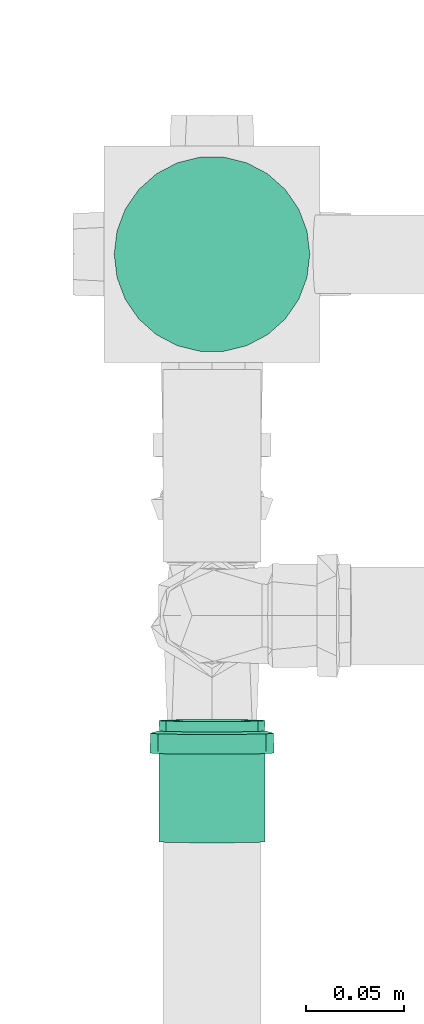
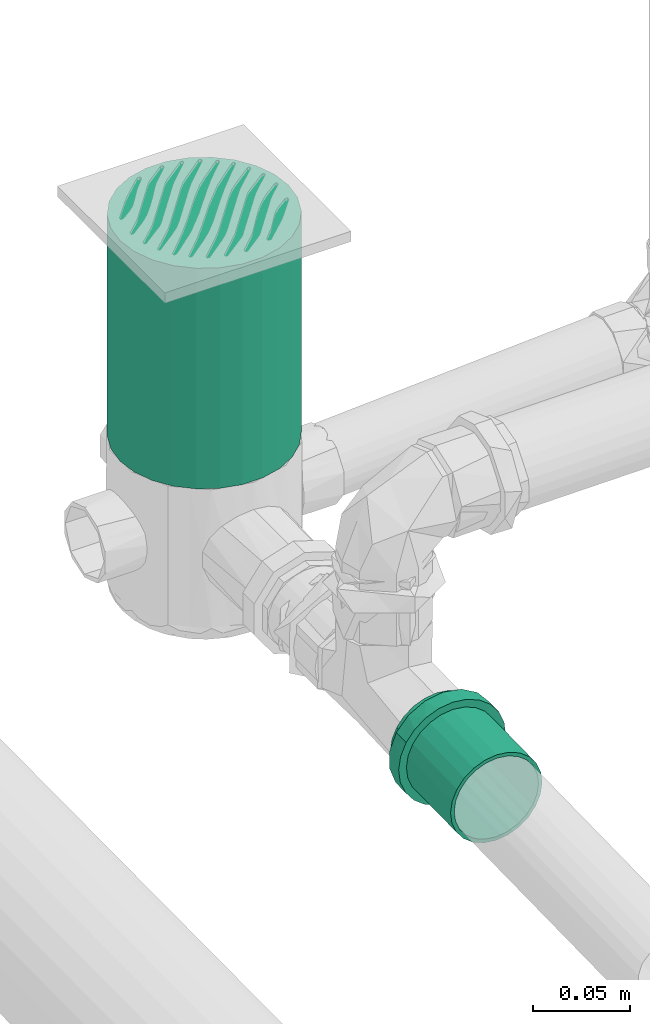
# One storey, part 135 of 589: 1 flow fitting, 1 flow segment.
"""IFC2X3 building model written with IfcOpenShell, lengths in millimetres."""

from ifc_helpers import new_model, entity, si_unit, converted_unit, derived_unit, direction, frame, origin, origin_2d_with_axis, place, context, subcontext, project, spatial, circle, extrude, faceted_brep, source, transform, mapped, material, type_object, type_shapes, element, save


model = new_model("IFC2X3")

# Units and contexts
model_context = context("Model", 3, precision=0.01, world=origin(), true_north=direction((6.123031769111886e-17, 1.0)))
body_context = subcontext(model_context, "Body", "Model", "MODEL_VIEW")
ifc_project = project(units=[si_unit("LENGTHUNIT", "METRE", prefix="MILLI"), si_unit("AREAUNIT", "SQUARE_METRE"), si_unit("VOLUMEUNIT", "CUBIC_METRE"), converted_unit("PLANEANGLEUNIT", "DEGREE", entity("IfcRatioMeasure", 0.017453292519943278), si_unit("PLANEANGLEUNIT", "RADIAN"), dimensions=[0, 0, 0, 0, 0, 0, 0]), si_unit("MASSUNIT", "GRAM", prefix="KILO"), derived_unit("MASSDENSITYUNIT", [(si_unit("MASSUNIT", "GRAM", prefix="KILO"), 1), (si_unit("LENGTHUNIT", "METRE"), -3)]), derived_unit("IONCONCENTRATIONUNIT", [(si_unit("MASSUNIT", "GRAM", prefix="KILO"), 1), (si_unit("LENGTHUNIT", "METRE"), -3)]), derived_unit("MOMENTOFINERTIAUNIT", [(si_unit("LENGTHUNIT", "METRE"), 4)]), si_unit("TIMEUNIT", "SECOND"), si_unit("FREQUENCYUNIT", "HERTZ"), si_unit("THERMODYNAMICTEMPERATUREUNIT", "DEGREE_CELSIUS"), derived_unit("THERMALTRANSMITTANCEUNIT", [(si_unit("MASSUNIT", "GRAM", prefix="KILO"), 1), (si_unit("THERMODYNAMICTEMPERATUREUNIT", "KELVIN"), -1), (si_unit("TIMEUNIT", "SECOND"), -3)]), derived_unit("THERMALCONDUCTANCEUNIT", [(si_unit("MASSUNIT", "GRAM", prefix="KILO"), 1), (si_unit("THERMODYNAMICTEMPERATUREUNIT", "KELVIN"), -1), (si_unit("TIMEUNIT", "SECOND"), -3), (si_unit("LENGTHUNIT", "METRE"), 1)]), derived_unit("VOLUMETRICFLOWRATEUNIT", [(si_unit("LENGTHUNIT", "METRE"), 3), (si_unit("TIMEUNIT", "SECOND"), -1)]), derived_unit("MASSFLOWRATEUNIT", [(si_unit("MASSUNIT", "GRAM", prefix="KILO"), 1), (si_unit("TIMEUNIT", "SECOND"), -1)]), derived_unit("ROTATIONALFREQUENCYUNIT", [(si_unit("TIMEUNIT", "SECOND"), -1)]), si_unit("ELECTRICCURRENTUNIT", "AMPERE"), si_unit("ELECTRICVOLTAGEUNIT", "VOLT"), si_unit("POWERUNIT", "WATT"), si_unit("FORCEUNIT", "NEWTON", prefix="KILO"), si_unit("ILLUMINANCEUNIT", "LUX"), si_unit("LUMINOUSFLUXUNIT", "LUMEN"), si_unit("LUMINOUSINTENSITYUNIT", "CANDELA"), derived_unit("USERDEFINED", [(si_unit("MASSUNIT", "GRAM", prefix="KILO"), -1), (si_unit("LENGTHUNIT", "METRE"), -2), (si_unit("TIMEUNIT", "SECOND"), 3), (si_unit("LUMINOUSFLUXUNIT", "LUMEN"), 1)]), derived_unit("USERDEFINED", [(si_unit("MASSUNIT", "GRAM", prefix="KILO"), 1), (si_unit("TIMEUNIT", "SECOND"), -3), (si_unit("LENGTHUNIT", "METRE"), 3), (si_unit("ELECTRICCURRENTUNIT", "AMPERE"), -2)]), derived_unit("SOUNDPOWERUNIT", [(si_unit("MASSUNIT", "GRAM", prefix="KILO"), 1), (si_unit("TIMEUNIT", "SECOND"), -3), (si_unit("LENGTHUNIT", "METRE"), 2)]), derived_unit("SOUNDPRESSUREUNIT", [(si_unit("MASSUNIT", "GRAM", prefix="KILO"), 1), (si_unit("LENGTHUNIT", "METRE"), -1), (si_unit("TIMEUNIT", "SECOND"), -2)]), derived_unit("LINEARVELOCITYUNIT", [(si_unit("LENGTHUNIT", "METRE"), 1), (si_unit("TIMEUNIT", "SECOND"), -1)]), si_unit("PRESSUREUNIT", "PASCAL"), derived_unit("USERDEFINED", [(si_unit("MASSUNIT", "GRAM", prefix="KILO"), 1), (si_unit("LENGTHUNIT", "METRE"), -2), (si_unit("TIMEUNIT", "SECOND"), -2)]), derived_unit("LINEARFORCEUNIT", [(si_unit("MASSUNIT", "GRAM", prefix="KILO"), 1), (si_unit("TIMEUNIT", "SECOND"), -2)]), derived_unit("PLANARFORCEUNIT", [(si_unit("MASSUNIT", "GRAM", prefix="KILO"), 1), (si_unit("LENGTHUNIT", "METRE"), -1), (si_unit("TIMEUNIT", "SECOND"), -2)]), derived_unit("SPECIFICHEATCAPACITYUNIT", [(si_unit("THERMODYNAMICTEMPERATUREUNIT", "KELVIN"), -1), (si_unit("LENGTHUNIT", "METRE"), 2), (si_unit("TIMEUNIT", "SECOND"), -2)]), derived_unit("HEATINGVALUEUNIT", [(si_unit("LENGTHUNIT", "METRE"), 2), (si_unit("TIMEUNIT", "SECOND"), -2)]), derived_unit("VAPORPERMEABILITYUNIT", [(si_unit("LENGTHUNIT", "METRE"), -1), (si_unit("TIMEUNIT", "SECOND"), 1)]), derived_unit("DYNAMICVISCOSITYUNIT", [(si_unit("MASSUNIT", "GRAM", prefix="KILO"), 1), (si_unit("TIMEUNIT", "SECOND"), -1), (si_unit("LENGTHUNIT", "METRE"), -1)]), derived_unit("THERMALEXPANSIONCOEFFICIENTUNIT", [(si_unit("THERMODYNAMICTEMPERATUREUNIT", "KELVIN"), -1)]), derived_unit("MODULUSOFELASTICITYUNIT", [(si_unit("MASSUNIT", "GRAM", prefix="KILO"), 1), (si_unit("LENGTHUNIT", "METRE"), -1), (si_unit("TIMEUNIT", "SECOND"), -2)]), derived_unit("ISOTHERMALMOISTURECAPACITYUNIT", [(si_unit("LENGTHUNIT", "METRE"), 3), (si_unit("MASSUNIT", "GRAM", prefix="KILO"), -1)]), derived_unit("MOISTUREDIFFUSIVITYUNIT", [(si_unit("TIMEUNIT", "SECOND"), -1), (si_unit("LENGTHUNIT", "METRE"), 2)])], contexts=[model_context])

# Site, building, storey
site_placement = place(None, origin())
site = spatial("IfcSite", under=ifc_project, at=site_placement, Name="Default", CompositionType="ELEMENT")
building_placement = place(site_placement, origin())
building = spatial("IfcBuilding", under=site, at=building_placement, CompositionType="ELEMENT")
storey_placement = place(building_placement, frame((0.0, 0.0, 100.0)))
storey = spatial("IfcBuildingStorey", under=building, at=storey_placement, Name="TÉRREO", CompositionType="ELEMENT", Elevation=100.0)

# Flow segment
pipe_segment_type = type_object("IfcPipeSegmentType", Name="Tipos de tubos:PVC Esgoto Série Normal", PredefinedType="NOTDEFINED")
flow_segment_placement = place(storey_placement, origin())
element("IfcFlowSegment", 1, at=flow_segment_placement, inside=storey, type_object=pipe_segment_type, Name="Tipos de tubos:PVC Esgoto Série Normal", ObjectType="Tipos de tubos:PVC Esgoto Série Normal", context=body_context, shape_type="SweptSolid", body=[
    extrude(circle(Radius=50.0, at=origin_2d_with_axis()), frame((9003.026170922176, -9709.279677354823, -144.90911149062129), z_axis=(0.0, 0.0, 1.0), x_axis=(-1.0, 0.0, 0.0)), (0.0, 0.0, 1.0), 138.40911149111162),
])

# Flow fitting
ifc_material = material(Name="PVC Série Normal")
pipe_fitting_type = type_object("IfcPipeFittingType", Name="PVC Esgoto_Luva Simples para Conexão_Rodrigo MEP:Standard", PredefinedType="NOTDEFINED", material=ifc_material)
shared_shape = source(origin(), body_context, "Body", "Brep", [
    faceted_brep([(16.599999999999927, 15.900000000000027, -27.53960784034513), (16.599999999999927, 22.485995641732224, -22.485995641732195), (16.599999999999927, 13.599999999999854, -23.555890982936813), (16.599999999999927, 7.039878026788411, -26.273182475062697), (16.599999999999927, 8.2304456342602, -30.71644127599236), (16.599999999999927, 19.233304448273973, -19.233304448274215), (16.599999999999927, 27.539607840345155, -15.899999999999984), (16.599999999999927, 23.55589098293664, -13.600000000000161), (16.599999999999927, 26.273182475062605, -7.03987802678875), (16.599999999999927, 30.716441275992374, -8.230445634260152), (16.599999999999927, 27.2, 0.0), (16.599999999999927, 31.8, 0.0), (16.599999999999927, 26.273182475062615, 7.0398780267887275), (16.599999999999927, 30.71644127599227, 8.23044563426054), (16.599999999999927, 23.555890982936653, 13.60000000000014), (16.599999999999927, 27.539607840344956, 15.900000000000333), (16.599999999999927, 19.233304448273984, 19.2333044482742), (16.599999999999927, 22.485995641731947, 22.48599564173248), (16.599999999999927, 13.599999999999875, 23.555890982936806), (16.599999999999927, 15.899999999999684, 27.53960784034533), (16.599999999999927, 7.039878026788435, 26.27318247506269), (16.599999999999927, 8.230445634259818, 30.716441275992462), (16.599999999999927, 0.0, 27.2), (16.599999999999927, 0.0, 31.8), (16.599999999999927, -7.039878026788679, 26.273182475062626), (16.599999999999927, -8.230445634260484, 30.716441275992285), (16.599999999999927, -13.600000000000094, 23.555890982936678), (16.599999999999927, -15.900000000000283, 27.53960784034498), (16.599999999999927, -19.23330444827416, 19.233304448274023), (16.599999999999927, -22.485995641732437, 22.48599564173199), (16.599999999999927, -23.55589098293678, 13.59999999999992), (16.599999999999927, -27.539607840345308, 15.899999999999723), (16.599999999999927, -30.71644127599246, 8.230445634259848), (16.599999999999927, -26.273182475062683, 7.039878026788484), (16.599999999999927, -31.8, 0.0), (16.599999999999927, -27.2, 0.0), (16.599999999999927, -30.71644127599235, -8.23044563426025), (16.599999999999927, -26.273182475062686, -7.03987802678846), (16.599999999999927, -27.53960784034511, -15.90000000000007), (16.599999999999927, -23.55589098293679, -13.599999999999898), (16.599999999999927, -22.485995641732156, -22.485995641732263), (16.599999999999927, -19.233304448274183, -19.233304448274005), (16.599999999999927, -15.899999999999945, -27.53960784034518), (16.599999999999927, -13.600000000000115, -23.555890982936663), (16.599999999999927, -8.230445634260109, -30.716441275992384), (16.599999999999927, -7.039878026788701, -26.273182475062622), (16.599999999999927, 0.0, -31.8), (16.599999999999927, 0.0, -27.2), (6.500000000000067, -10.708108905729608, 29.429219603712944), (6.500000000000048, -24.359073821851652, 20.44200387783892), (6.500000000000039, -27.120498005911, 15.6595386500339), (6.50000000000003, -29.881922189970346, 10.877073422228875), (6.500000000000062, -15.89769721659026, 27.540937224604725), (6.500000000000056, -20.128385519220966, 23.991470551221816), (6.50000000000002, -30.840961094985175, 5.438536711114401), (6.5000000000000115, -31.8, 0.0), (6.50000000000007, -5.518520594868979, 31.317501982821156), (6.500000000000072, 5.526376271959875, 31.316116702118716), (6.50000000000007, 0.00392783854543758, 31.316809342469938), (6.500000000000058, 20.134403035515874, 23.986420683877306), (6.500000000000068, 10.715490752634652, 29.42653259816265), (6.500000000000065, 15.904605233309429, 27.536948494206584), (6.500000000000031, 29.8846497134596, 10.869577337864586), (6.500000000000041, 27.12442527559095, 15.652735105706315), (6.5000000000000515, 24.364200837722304, 20.435892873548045), (6.5000000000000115, 31.8, 0.0), (6.499999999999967, 24.364200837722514, -20.435892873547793), (6.499999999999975, 27.12442527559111, -15.652735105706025), (6.499999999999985, 29.884649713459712, -10.869577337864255), (6.4999999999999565, 15.904605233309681, -27.53694849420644), (6.499999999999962, 20.134403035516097, -23.986420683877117), (6.499999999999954, 10.715490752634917, -29.42653259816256), (6.499999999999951, 5.526376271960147, -31.31611670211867), (6.499999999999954, -5.518520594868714, -31.317501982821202), (6.499999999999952, 0.003927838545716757, -31.316809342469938), (6.499999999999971, -20.128385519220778, -23.99147055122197), (6.499999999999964, -15.897697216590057, -27.54093722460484), (6.499999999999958, -10.70810890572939, -29.42921960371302), (6.499999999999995, -29.881922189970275, -10.877073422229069), (6.499999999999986, -27.12049800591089, -15.659538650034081), (6.499999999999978, -24.359073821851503, -20.442003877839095), (6.500000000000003, -30.840961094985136, -5.438536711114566), (6.499999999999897, -30.696173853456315, -6.259599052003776), (62.0, 13.600000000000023, -23.55589098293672), (62.0, 19.233304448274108, -19.23330444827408), (62.0, 12.499999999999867, -21.650635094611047), (62.0, 6.470476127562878, -24.14814565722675), (62.0, 7.039878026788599, -26.273182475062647), (62.0, 17.677669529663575, -17.677669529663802), (62.0, 23.55589098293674, -13.599999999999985), (62.0, 21.65063509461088, -12.50000000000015), (62.0, 24.148145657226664, -6.470476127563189), (62.0, 26.27318247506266, -7.039878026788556), (62.0, 25.0, 0.0), (62.0, 27.2, 0.0), (62.0, 24.148145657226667, 6.4704761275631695), (62.0, 26.273182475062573, 7.03987802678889), (62.0, 21.650635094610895, 12.500000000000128), (62.0, 23.555890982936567, 13.600000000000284), (62.0, 17.67766952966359, 17.67766952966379), (62.0, 19.233304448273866, 19.233304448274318), (62.0, 12.499999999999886, 21.650635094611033), (62.0, 13.59999999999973, 23.55589098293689), (62.0, 6.4704761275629, 24.14814565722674), (62.0, 7.039878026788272, 26.273182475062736), (62.0, 0.0, 25.0), (62.0, 0.0, 27.2), (62.0, -6.470476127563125, 24.148145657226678), (62.0, -7.039878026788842, 26.273182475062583), (62.0, -12.500000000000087, 21.650635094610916), (62.0, -13.600000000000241, 23.555890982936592), (62.0, -17.677669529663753, 17.677669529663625), (62.0, -19.233304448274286, 19.2333044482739), (62.0, -21.65063509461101, 12.499999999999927), (62.0, -23.555890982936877, 13.599999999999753), (62.0, -26.27318247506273, 7.039878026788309), (62.0, -24.14814565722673, 6.470476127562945), (62.0, -27.2, 0.0), (62.0, -25.0, 0.0), (62.0, -26.27318247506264, -7.0398780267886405), (62.0, -24.148145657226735, -6.470476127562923), (62.0, -23.5558909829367, -13.600000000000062), (62.0, -21.650635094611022, -12.499999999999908), (62.0, -19.233304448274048, -19.233304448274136), (62.0, -17.67766952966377, -17.677669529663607), (62.0, -13.599999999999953, -23.555890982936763), (62.0, -12.500000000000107, -21.650635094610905), (62.0, -7.039878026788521, -26.27318247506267), (62.0, -6.470476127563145, -24.148145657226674), (62.0, 0.0, -27.2), (62.0, 0.0, -25.0), (0.0, 12.499999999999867, -21.650635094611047), (0.0, 19.233304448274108, -19.23330444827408), (0.0, 13.600000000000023, -23.55589098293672), (0.0, 6.470476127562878, -24.14814565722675), (0.0, 17.677669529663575, -17.677669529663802), (0.0, 23.55589098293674, -13.599999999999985), (0.0, 21.65063509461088, -12.50000000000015), (0.0, 24.148145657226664, -6.470476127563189), (0.0, 26.27318247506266, -7.039878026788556), (0.0, 25.0, 0.0), (0.0, 27.2, 0.0), (0.0, 24.148145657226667, 6.4704761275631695), (0.0, 26.273182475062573, 7.03987802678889), (0.0, 21.650635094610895, 12.500000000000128), (0.0, 23.555890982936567, 13.600000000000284), (0.0, 17.67766952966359, 17.67766952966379), (0.0, 19.233304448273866, 19.233304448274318), (0.0, 12.499999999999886, 21.650635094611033), (0.0, 13.59999999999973, 23.55589098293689), (0.0, 6.4704761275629, 24.14814565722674), (0.0, 7.039878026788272, 26.273182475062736), (0.0, 0.0, 25.0), (0.0, 0.0, 27.2), (0.0, -6.470476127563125, 24.148145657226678), (0.0, -7.039878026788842, 26.273182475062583), (0.0, -12.500000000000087, 21.650635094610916), (0.0, -13.600000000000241, 23.555890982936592), (0.0, -17.677669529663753, 17.677669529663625), (0.0, -19.233304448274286, 19.2333044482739), (0.0, -21.65063509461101, 12.499999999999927), (0.0, -23.555890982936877, 13.599999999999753), (0.0, -26.27318247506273, 7.039878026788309), (0.0, -24.14814565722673, 6.470476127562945), (0.0, -27.2, 0.0), (0.0, -25.0, 0.0), (0.0, -26.27318247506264, -7.0398780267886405), (0.0, -24.148145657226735, -6.470476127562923), (0.0, -23.5558909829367, -13.600000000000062), (0.0, -21.650635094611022, -12.499999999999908), (0.0, -19.233304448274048, -19.233304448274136), (0.0, -17.67766952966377, -17.677669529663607), (0.0, -13.599999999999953, -23.555890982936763), (0.0, -12.500000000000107, -21.650635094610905), (0.0, -7.039878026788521, -26.27318247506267), (0.0, -6.470476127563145, -24.148145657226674), (0.0, 0.0, -27.2), (0.0, 0.0, -25.0), (0.0, 7.039878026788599, -26.273182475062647), (5.300000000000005, -26.37968999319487, 4.651830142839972), (5.299999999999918, -26.25584678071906, 5.354122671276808), (5.300000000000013, -25.559379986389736, 9.303660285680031), (5.300000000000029, -20.835434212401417, 17.48498444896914), (5.300000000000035, -17.216732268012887, 20.521006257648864), (5.300000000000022, -23.19740709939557, 13.394322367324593), (5.3000000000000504, -4.720244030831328, 26.787297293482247), (5.300000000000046, -9.15913717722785, 25.172162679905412), (5.299999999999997, -27.2, 0.0), (5.300000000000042, -13.598030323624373, 23.557028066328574), (5.300000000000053, 9.165451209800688, 25.169864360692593), (5.300000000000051, 13.603939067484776, 23.55361632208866), (5.300000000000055, 4.7269633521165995, 26.786112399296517), (5.300000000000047, 17.221879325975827, 20.516686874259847), (5.300000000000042, 20.839819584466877, 17.479757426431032), (5.3000000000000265, 25.56171296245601, 9.297248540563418), (5.299999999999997, 27.2, 0.0), (5.3000000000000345, 23.20076627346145, 13.388502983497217), (5.300000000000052, 0.003359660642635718, 26.786704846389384), (5.299999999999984, 25.56171296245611, -9.29724854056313), (5.299999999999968, 20.839819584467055, -17.47975742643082), (5.2999999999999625, 17.22187932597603, -20.516686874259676), (5.299999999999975, 23.200766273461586, -13.388502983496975), (5.299999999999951, 4.726963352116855, -26.78611239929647), (5.2999999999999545, 9.165451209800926, -25.169864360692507), (5.299999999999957, 13.603939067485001, -23.553616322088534), (5.29999999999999, -26.379689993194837, -4.651830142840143), (5.299999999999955, -9.159137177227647, -25.17216267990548), (5.299999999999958, -13.5980303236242, -23.55702806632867), (5.299999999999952, -4.720244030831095, -26.787297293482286), (5.299999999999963, -17.216732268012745, -20.52100625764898), (5.299999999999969, -20.83543421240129, -17.484984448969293), (5.299999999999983, -25.559379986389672, -9.303660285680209), (5.299999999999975, -23.197407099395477, -13.394322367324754), (5.299999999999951, 0.003359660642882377, -26.78670484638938), (39.0, -25.0, 0.0), (39.0, 25.0, 0.0)], [[[0, 1, 2]], [[0, 2, 3]], [[3, 4, 0]], [[2, 1, 5]], [[6, 5, 1]], [[7, 5, 6]], [[8, 7, 6]], [[8, 6, 9]], [[8, 9, 10]], [[10, 9, 11]], [[12, 10, 11]], [[12, 11, 13]], [[14, 12, 13]], [[14, 13, 15]], [[16, 14, 15]], [[15, 17, 16]], [[17, 18, 16]], [[17, 19, 18]], [[18, 19, 20]], [[21, 20, 19]], [[20, 21, 22]], [[22, 21, 23]], [[22, 23, 24]], [[24, 23, 25]], [[24, 25, 26]], [[27, 26, 25]], [[27, 28, 26]], [[28, 27, 29]], [[30, 28, 29]], [[31, 30, 29]], [[32, 30, 31]], [[33, 30, 32]], [[33, 32, 34]], [[35, 33, 34]], [[36, 35, 34]], [[36, 37, 35]], [[37, 36, 38]], [[39, 37, 38]], [[39, 38, 40]], [[39, 40, 41]], [[40, 42, 41]], [[41, 42, 43]], [[43, 42, 44]], [[44, 45, 43]], [[46, 45, 44]], [[4, 47, 46]], [[46, 47, 45]], [[4, 3, 47]], [[48, 27, 25]], [[31, 29, 49]], [[31, 49, 50, 51]], [[52, 53, 27]], [[32, 51, 54]], [[54, 55, 34]], [[54, 34, 32]], [[25, 56, 48]], [[49, 29, 53]], [[23, 57, 58, 56]], [[59, 19, 17]], [[27, 53, 29]], [[48, 52, 27]], [[31, 51, 32]], [[57, 23, 21]], [[60, 19, 61]], [[15, 62, 63, 64]], [[19, 60, 21]], [[15, 13, 62]], [[17, 64, 59]], [[57, 21, 60]], [[23, 56, 25]], [[15, 64, 17]], [[13, 65, 62]], [[13, 11, 65]], [[59, 61, 19]], [[65, 11, 9]], [[6, 1, 66]], [[6, 66, 67, 68]], [[69, 70, 0]], [[68, 65, 9]], [[71, 69, 0]], [[71, 0, 4]], [[4, 72, 71]], [[66, 1, 70]], [[46, 73, 74, 72]], [[75, 76, 42]], [[0, 70, 1]], [[75, 42, 40]], [[6, 68, 9]], [[73, 46, 44]], [[77, 42, 76]], [[38, 78, 79, 80]], [[42, 77, 44]], [[38, 36, 78]], [[40, 80, 75]], [[73, 44, 77]], [[46, 72, 4]], [[38, 80, 40]], [[36, 81, 82, 78]], [[55, 81, 34]], [[34, 81, 36]], [[83, 84, 85]], [[83, 85, 86]], [[86, 87, 83]], [[85, 84, 88]], [[89, 88, 84]], [[88, 89, 90]], [[90, 89, 91]], [[92, 91, 89]], [[92, 93, 91]], [[93, 92, 94]], [[95, 93, 94]], [[94, 96, 95]], [[95, 96, 97]], [[98, 97, 96]], [[97, 98, 99]], [[99, 98, 100]], [[101, 99, 100]], [[100, 102, 101]], [[101, 102, 103]], [[104, 103, 102]], [[103, 104, 105]], [[105, 104, 106]], [[105, 106, 107]], [[107, 106, 108]], [[107, 108, 109]], [[110, 109, 108]], [[110, 111, 109]], [[111, 110, 112]], [[112, 113, 111]], [[114, 113, 112]], [[113, 114, 115]], [[115, 116, 113]], [[117, 116, 115]], [[117, 118, 116]], [[119, 118, 117]], [[119, 120, 118]], [[120, 119, 121]], [[121, 122, 120]], [[122, 121, 123]], [[122, 123, 124]], [[123, 125, 124]], [[124, 125, 126]], [[126, 125, 127]], [[127, 128, 126]], [[129, 128, 127]], [[87, 130, 129]], [[129, 130, 128]], [[87, 86, 130]], [[131, 132, 133]], [[134, 131, 133]], [[135, 132, 131]], [[132, 135, 136]], [[137, 136, 135]], [[138, 136, 137]], [[136, 138, 139]], [[138, 140, 139]], [[141, 139, 140]], [[141, 140, 142]], [[142, 143, 141]], [[144, 143, 142]], [[143, 144, 145]], [[146, 145, 144]], [[147, 145, 146]], [[147, 146, 148]], [[148, 149, 147]], [[150, 149, 148]], [[149, 150, 151]], [[152, 151, 150]], [[153, 151, 152]], [[154, 153, 152]], [[155, 153, 154]], [[156, 155, 154]], [[155, 156, 157]], [[156, 158, 157]], [[159, 157, 158]], [[158, 160, 159]], [[159, 160, 161]], [[162, 161, 160]], [[160, 163, 162]], [[162, 163, 164]], [[163, 165, 164]], [[164, 165, 166]], [[165, 167, 166]], [[168, 166, 167]], [[167, 169, 168]], [[170, 168, 169]], [[171, 170, 169]], [[171, 172, 170]], [[173, 172, 171]], [[174, 172, 173]], [[173, 175, 174]], [[174, 175, 176]], [[175, 177, 176]], [[177, 134, 178]], [[176, 177, 178]], [[133, 178, 134]], [[162, 179, 180, 181]], [[159, 182, 183]], [[182, 161, 181, 184]], [[185, 155, 186]], [[161, 162, 181]], [[187, 179, 164]], [[183, 188, 157]], [[183, 157, 159]], [[161, 182, 159]], [[189, 190, 149]], [[189, 149, 151]], [[157, 188, 186]], [[157, 186, 155]], [[153, 155, 185]], [[164, 179, 162]], [[151, 191, 189]], [[147, 192, 193]], [[143, 194, 195]], [[194, 145, 193, 196]], [[143, 195, 141]], [[10, 12, 96, 94]], [[149, 192, 147]], [[153, 185, 197, 191]], [[153, 191, 151]], [[145, 147, 193]], [[190, 192, 149]], [[145, 194, 143]], [[139, 195, 198]], [[132, 199, 200]], [[199, 136, 198, 201]], [[202, 178, 203]], [[136, 139, 198]], [[139, 141, 195]], [[92, 8, 10, 94]], [[133, 203, 178]], [[200, 204, 133]], [[136, 199, 132]], [[205, 164, 166]], [[206, 207, 172]], [[133, 204, 203]], [[206, 172, 174]], [[176, 178, 202]], [[200, 133, 132]], [[174, 208, 206]], [[170, 209, 210]], [[166, 211, 205]], [[211, 168, 210, 212]], [[168, 211, 166]], [[172, 209, 170]], [[176, 202, 213, 208]], [[176, 208, 174]], [[168, 170, 210]], [[207, 209, 172]], [[205, 187, 164]], [[116, 118, 214, 165, 163]], [[156, 109, 111, 158]], [[111, 113, 160, 158]], [[113, 116, 163, 160]], [[107, 109, 156, 154]], [[154, 152, 105, 107]], [[103, 105, 152, 150]], [[103, 150, 148, 101]], [[142, 95, 97, 144]], [[97, 99, 146, 144]], [[99, 101, 148, 146]], [[93, 95, 142, 140, 215]], [[215, 140, 138, 91, 93]], [[135, 131, 85, 88]], [[90, 91, 138, 137]], [[90, 137, 135, 88]], [[86, 85, 131, 134]], [[134, 177, 130, 86]], [[128, 130, 177, 175]], [[128, 175, 173, 126]], [[167, 120, 122, 169]], [[122, 124, 171, 169]], [[124, 126, 173, 171]], [[118, 120, 167, 165, 214]], [[211, 78, 82, 81, 55, 187, 205]], [[79, 78, 211, 212, 210, 80]], [[75, 80, 210, 209, 207, 76]], [[207, 206, 208, 73, 77, 76]], [[213, 202, 72, 74, 73, 208]], [[203, 204, 69, 71, 72, 202]], [[198, 195, 65, 68]], [[199, 201, 198, 68, 67, 66]], [[204, 200, 199, 66, 70, 69]], [[195, 194, 62, 65]], [[197, 185, 56, 58, 57, 191]], [[63, 62, 194, 196, 193, 64]], [[57, 60, 61, 190, 189, 191]], [[193, 192, 190, 61, 59, 64]], [[48, 56, 185, 186, 188, 52]], [[187, 55, 54, 51, 181, 180, 179]], [[182, 184, 181, 51, 50, 49]], [[188, 183, 182, 49, 53, 52]], [[30, 33, 115, 114]], [[117, 115, 33, 35]], [[26, 28, 112, 110]], [[114, 112, 28, 30]], [[24, 26, 110, 108]], [[108, 106, 22, 24]], [[18, 20, 104, 102]], [[100, 16, 18, 102]], [[12, 14, 98, 96]], [[100, 98, 14, 16]], [[104, 20, 22, 106]], [[89, 7, 8, 92]], [[83, 87, 3, 2]], [[7, 89, 84, 5]], [[83, 2, 5, 84]], [[87, 129, 47, 3]], [[43, 45, 127, 125]], [[123, 41, 43, 125]], [[37, 39, 121, 119]], [[123, 121, 39, 41]], [[35, 37, 119, 117]], [[127, 45, 47, 129]]]),
])
type_shapes(pipe_fitting_type, [shared_shape])
flow_fitting_placement = place(storey_placement, frame((9003.026170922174, -9947.620079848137, -190.1225375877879), z_axis=(-1.0, 0.0, 0.0), x_axis=(0.0, -0.9998000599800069, -0.019996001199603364)))
element("IfcFlowFitting", 2, at=flow_fitting_placement, inside=storey, type_object=pipe_fitting_type, material=ifc_material, Name="PVC Esgoto_Luva Simples para Conexão_Rodrigo MEP:Standard", ObjectType="PVC Esgoto_Luva Simples para Conexão_Rodrigo MEP:Standard", context=body_context, shape_type="MappedRepresentation", body=[
    mapped(shared_shape, transform((0.0, 0.0, 0.0), scale=1.0)),
])

save(model, "model.ifc")
